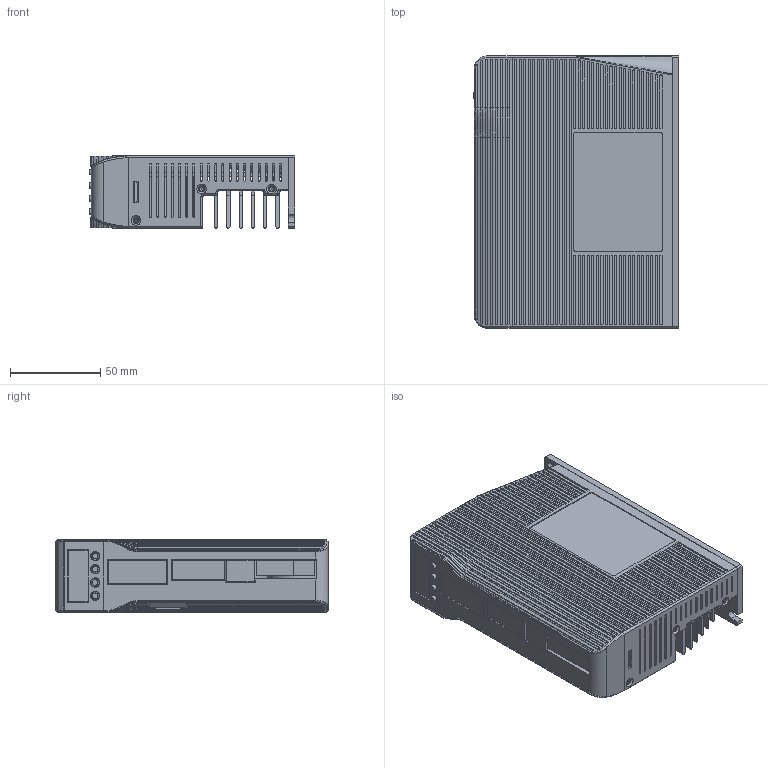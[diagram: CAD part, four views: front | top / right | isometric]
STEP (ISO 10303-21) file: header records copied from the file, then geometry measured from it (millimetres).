
FILE_DESCRIPTION(/* description */ (''),/* implementation_level */ '2;1');
FILE_NAME(/* name */ '20201210-V5.stp',/* time_stamp */ '2020-12-10T16:07:39+08:00',/* author */ (''),/* organization */ (''),/* preprocessor_version */ 'ST-DEVELOPER v16',/* originating_system */ 'SIEMENS PLM Software NX 10.0',/* authorisation */ '');
FILE_SCHEMA (('AP203_CONFIGURATION_CONTROLLED_3D_DESIGN_OF_MECHANICAL_PARTS_AND_ASSEMBLIES_MIM_LF { 1 0 10303 403 2 1 2}'));
Products named in the file (1): Admi2780BD873p6d
Bounding box: 113.7 x 151 x 40 mm (x, y, z)
Volume: 239802.9 mm3; surface area: 197593.2 mm2
Topology: 20 solids, 20 shells, 1910 faces, 5476 edges, 3627 vertices
Faces by surface type: plane 1130, cylinder 497, bspline 105, extrusion 90, cone 78, torus 6, sphere 4
Full cylindrical faces by diameter (mm): 0.8 x6, 1 x18, 1.5 x4, 2.5 x22, 3 x9, 3.3 x6, 4 x7, 4.5 x5, 8 x1, 30 x2
Entity records: 72399 total; most frequent: CARTESIAN_POINT 23231, ORIENTED_EDGE 10504, DIRECTION 9055, EDGE_CURVE 5252, VERTEX_POINT 3560, VECTOR 3435, LINE 3345, AXIS2_PLACEMENT_3D 2810
